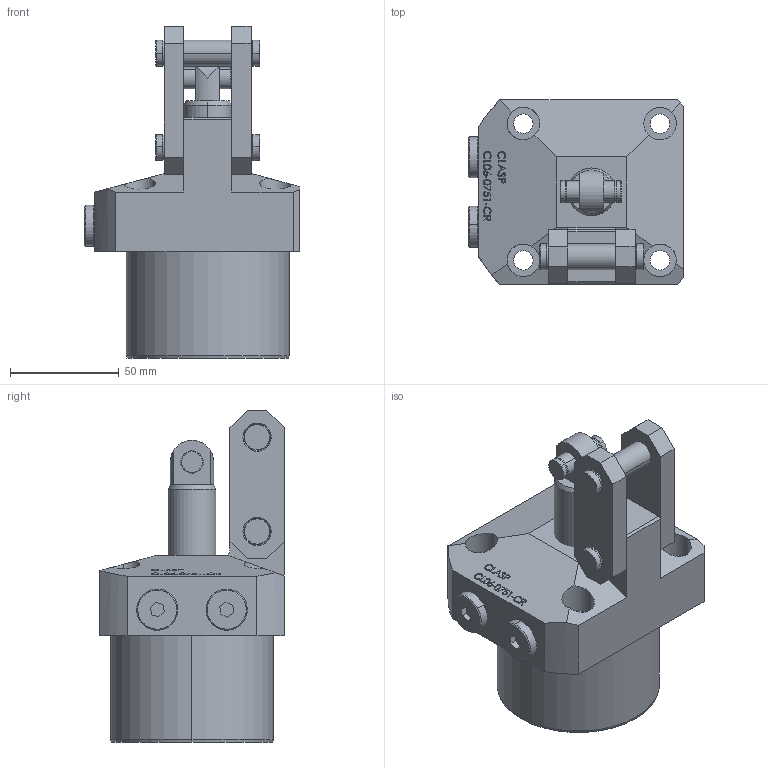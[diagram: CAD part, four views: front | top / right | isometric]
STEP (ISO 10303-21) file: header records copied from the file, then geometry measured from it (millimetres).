
FILE_DESCRIPTION (( 'STEP AP203' ), '1' );
FILE_NAME ('CL06-0751 R.STEP', '2022-07-05T17:41:34', ( '' ), ( '' ), 'SwSTEP 2.0', 'SolidWorks 2017', '' );
FILE_SCHEMA (( 'CONFIG_CONTROL_DESIGN' ));
Length unit declared in the file: millimetre
Products named in the file (7): CL06-0751  Part6 cr; CL06-0751  Part7 cr; CL06-0751 R; CL06-0751 Part1 cr; CL06-0751 Part3 cr; CL06-0751 Part2 cr; CL06-0751  Part5 cr
Assembly tree (9 placements, depth 2):
  CL06-0751 R
    CL06-0751 Part1 cr
    CL06-0751 Part3 cr
    CL06-0751 Part2 cr  x2
    CL06-0751  Part5 cr  x2
    CL06-0751  Part6 cr  x2
    CL06-0751  Part7 cr
Bounding box: 99.5 x 85 x 153 mm (x, y, z)
Volume: 526159 mm3; surface area: 68934.4 mm2
Topology: 9 solids, 9 shells, 415 faces, 1012 edges, 656 vertices
Faces by surface type: plane 192, bspline 88, cylinder 87, cone 48
Entity records: 16669 total; most frequent: CARTESIAN_POINT 7840, ORIENTED_EDGE 1772, DIRECTION 1404, EDGE_CURVE 886, VERTEX_POINT 580, LINE 524, VECTOR 524, AXIS2_PLACEMENT_3D 440
